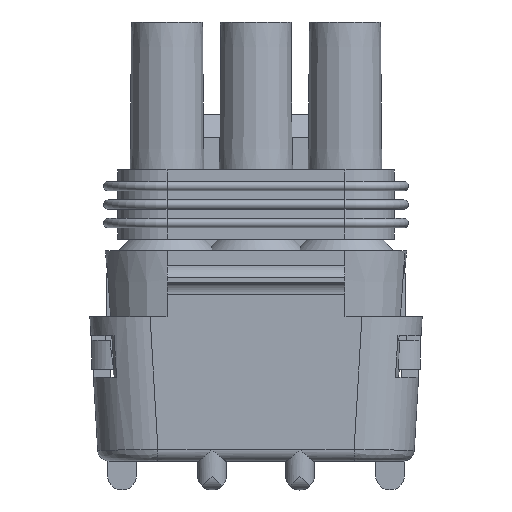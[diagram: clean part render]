
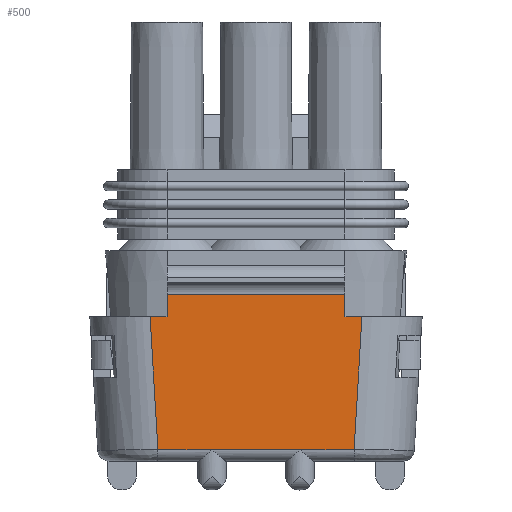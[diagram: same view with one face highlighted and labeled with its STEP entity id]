
A CAD part, front view. The second image highlights one B-rep face of the part: STEP entity #500.
In plain terms, the highlighted planar face has unit normal (0, -1, 0).
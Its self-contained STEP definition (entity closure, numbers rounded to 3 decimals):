
#500=ADVANCED_FACE('',(#822),#708,.T.);
#708=PLANE('',#3922);
#822=FACE_OUTER_BOUND('',#1003,.T.);
#1003=EDGE_LOOP('',(#1243,#1244,#1245,#1246,#1247,#1248,#1249,#1250,#1251,
#1252));
#1243=ORIENTED_EDGE('',*,*,#2717,.F.);
#1244=ORIENTED_EDGE('',*,*,#2718,.F.);
#1245=ORIENTED_EDGE('',*,*,#2719,.T.);
#1246=ORIENTED_EDGE('',*,*,#2720,.T.);
#1247=ORIENTED_EDGE('',*,*,#2721,.T.);
#1248=ORIENTED_EDGE('',*,*,#2722,.T.);
#1249=ORIENTED_EDGE('',*,*,#2723,.T.);
#1250=ORIENTED_EDGE('',*,*,#2724,.F.);
#1251=ORIENTED_EDGE('',*,*,#2725,.T.);
#1252=ORIENTED_EDGE('',*,*,#2726,.T.);
#2347=VERTEX_POINT('',#5413);
#2348=VERTEX_POINT('',#5414);
#2349=VERTEX_POINT('',#5416);
#2350=VERTEX_POINT('',#5418);
#2351=VERTEX_POINT('',#5420);
#2352=VERTEX_POINT('',#5422);
#2353=VERTEX_POINT('',#5424);
#2354=VERTEX_POINT('',#5426);
#2355=VERTEX_POINT('',#5428);
#2356=VERTEX_POINT('',#5430);
#2717=EDGE_CURVE('',#2347,#2348,#3269,.T.);
#2718=EDGE_CURVE('',#2349,#2347,#3270,.T.);
#2719=EDGE_CURVE('',#2349,#2350,#3271,.T.);
#2720=EDGE_CURVE('',#2350,#2351,#3272,.T.);
#2721=EDGE_CURVE('',#2351,#2352,#3273,.T.);
#2722=EDGE_CURVE('',#2352,#2353,#3274,.T.);
#2723=EDGE_CURVE('',#2353,#2354,#3275,.T.);
#2724=EDGE_CURVE('',#2355,#2354,#3276,.T.);
#2725=EDGE_CURVE('',#2355,#2356,#3277,.T.);
#2726=EDGE_CURVE('',#2356,#2348,#3278,.T.);
#3269=LINE('',#5412,#3595);
#3270=LINE('',#5415,#3596);
#3271=LINE('',#5417,#3597);
#3272=LINE('',#5419,#3598);
#3273=LINE('',#5421,#3599);
#3274=LINE('',#5423,#3600);
#3275=LINE('',#5425,#3601);
#3276=LINE('',#5427,#3602);
#3277=LINE('',#5429,#3603);
#3278=LINE('',#5431,#3604);
#3595=VECTOR('',#4311,1.);
#3596=VECTOR('',#4312,1.);
#3597=VECTOR('',#4313,1.);
#3598=VECTOR('',#4314,1.);
#3599=VECTOR('',#4315,1.);
#3600=VECTOR('',#4316,1.);
#3601=VECTOR('',#4317,1.);
#3602=VECTOR('',#4318,1.);
#3603=VECTOR('',#4319,1.);
#3604=VECTOR('',#4320,1.);
#3922=AXIS2_PLACEMENT_3D('',#5432,#4321,#4322);
#4311=DIRECTION('',(0.,0.,1.));
#4312=DIRECTION('',(1.,0.,0.));
#4313=DIRECTION('',(0.059,0.,-0.998));
#4314=DIRECTION('',(1.,0.,0.));
#4315=DIRECTION('',(1.,0.,0.));
#4316=DIRECTION('',(1.,0.,0.));
#4317=DIRECTION('',(0.059,0.,0.998));
#4318=DIRECTION('',(1.,0.,0.));
#4319=DIRECTION('',(0.,0.,1.));
#4320=DIRECTION('',(-1.,0.,0.));
#4321=DIRECTION('',(0.,-1.,0.));
#4322=DIRECTION('',(0.,0.,1.));
#5412=CARTESIAN_POINT('',(-7.7,-7.253,-13.625));
#5413=CARTESIAN_POINT('',(-7.7,-7.253,-11.49));
#5414=CARTESIAN_POINT('',(-7.7,-7.253,-9.54));
#5415=CARTESIAN_POINT('',(-13.636,-7.253,-11.49));
#5416=CARTESIAN_POINT('',(-9.165,-7.253,-11.49));
#5417=CARTESIAN_POINT('',(-8.398,-7.253,-24.486));
#5418=CARTESIAN_POINT('',(-8.486,-7.253,-22.99));
#5419=CARTESIAN_POINT('',(0.,-7.253,-22.99));
#5420=CARTESIAN_POINT('',(-3.8,-7.253,-22.99));
#5421=CARTESIAN_POINT('',(0.,-7.253,-22.99));
#5422=CARTESIAN_POINT('',(3.8,-7.253,-22.99));
#5423=CARTESIAN_POINT('',(0.,-7.253,-22.99));
#5424=CARTESIAN_POINT('',(8.486,-7.253,-22.99));
#5425=CARTESIAN_POINT('',(8.398,-7.253,-24.486));
#5426=CARTESIAN_POINT('',(9.165,-7.253,-11.49));
#5427=CARTESIAN_POINT('',(-13.636,-7.253,-11.49));
#5428=CARTESIAN_POINT('',(7.7,-7.253,-11.49));
#5429=CARTESIAN_POINT('',(7.7,-7.253,-13.625));
#5430=CARTESIAN_POINT('',(7.7,-7.253,-9.54));
#5431=CARTESIAN_POINT('',(7.7,-7.253,-9.54));
#5432=CARTESIAN_POINT('',(7.7,-7.253,-11.583));
